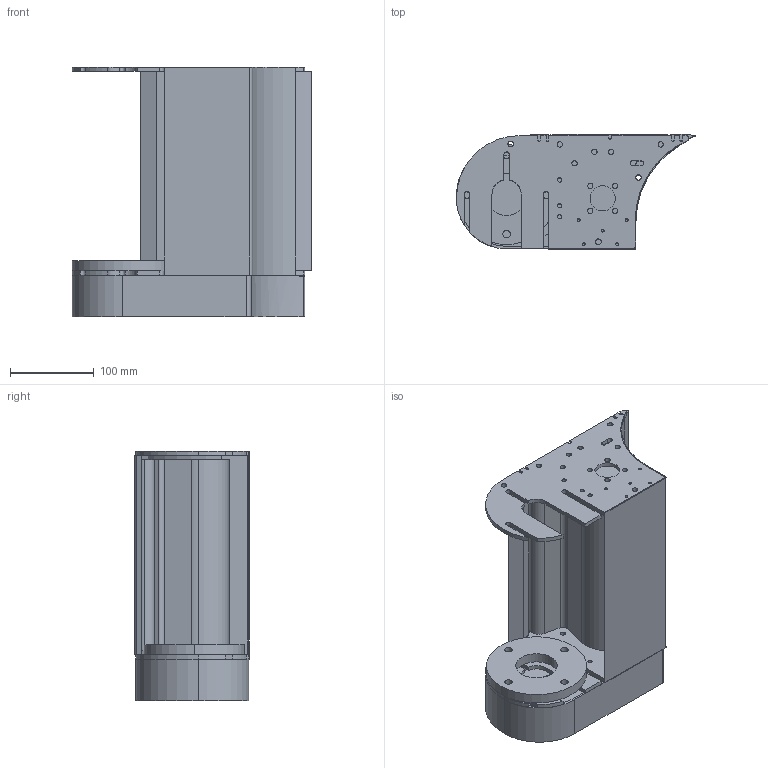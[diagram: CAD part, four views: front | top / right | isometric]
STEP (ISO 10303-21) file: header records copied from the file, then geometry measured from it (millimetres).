
FILE_DESCRIPTION (( 'STEP AP214' ), '1' );
FILE_NAME ('F2 750 TMDR NTB.step', '2017-04-05T07:35:30', ( '' ), ( '' ), 'SwSTEP 2.0', 'SolidWorks 2015', '' );
FILE_SCHEMA (( 'AUTOMOTIVE_DESIGN' ));
Length unit declared in the file: millimetre
Products named in the file (1): F2 750 TMDR NTB
Bounding box: 286.35 x 137.58 x 299 mm (x, y, z)
Volume: 2888638.7 mm3; surface area: 565534.5 mm2
Topology: 9 solids, 9 shells, 367 faces, 1038 edges, 691 vertices
Faces by surface type: cylinder 200, plane 167
Entity records: 12490 total; most frequent: DIRECTION 2177, CARTESIAN_POINT 2097, ORIENTED_EDGE 2076, EDGE_CURVE 1038, AXIS2_PLACEMENT_3D 771, VERTEX_POINT 691, VECTOR 635, LINE 635
